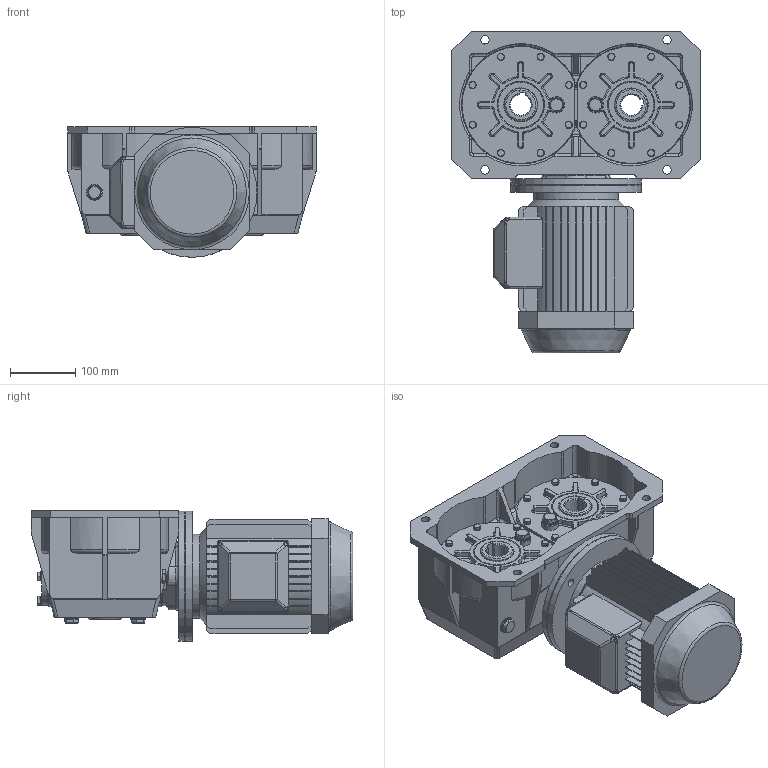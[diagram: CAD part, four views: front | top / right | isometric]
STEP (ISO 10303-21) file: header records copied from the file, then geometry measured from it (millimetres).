
FILE_DESCRIPTION((''),'2;1');
FILE_NAME('Y:\Archivi Inventor\Prog_07\int_170\figurini\MRV1702U per sito\MRV1702U_90l_B5.stp','2013-02-14T15:15:39',('tech3'),(''),'Autodesk Inventor 2013','Autodesk Inventor 2013','');
FILE_SCHEMA(('AUTOMOTIVE_DESIGN { 1 0 10303 214 1 1 1 1 }'));
Length unit declared in the file: millimetre
Products named in the file (18): fig_MRV170 2U 80 B5; fig_Carcassa MRV-2U 170; fig_0717002-A0; 0104029; fig_mozzo corona. MRV-RV40cusc_conici; 0104006; fig_0717009; 0104028; PARAOLIO 50x70x10; PARAOLIO 35x47x8; Guarnizione 3_8 GAS; Tappo3_8 GAS; AS 1237 (2.1) 6; AS 1237 (2.1) 8; UNI 5739 M6 x 20; UNI 5739 M8 x 20; motori B5 90L; UNI 5931 M 8 x  25
Assembly tree (72 placements, depth 2):
  fig_MRV170 2U 80 B5
    fig_Carcassa MRV-2U 170
    fig_0717002-A0  x2
    0104029  x2
    fig_mozzo corona. MRV-RV40cusc_conici  x2
    0104006
    fig_0717009
    0104028
    PARAOLIO 50x70x10  x4
    PARAOLIO 35x47x8
    Guarnizione 3_8 GAS  x6
    Tappo3_8 GAS  x6
    AS 1237 (2.1) 6  x16
    AS 1237 (2.1) 8  x4
    UNI 5739 M6 x 20  x16
    UNI 5739 M8 x 20  x4
    motori B5 90L
    UNI 5931 M 8 x  25  x4
Bounding box: 382 x 494.85 x 201 mm (x, y, z)
Volume: 12451496.1 mm3; surface area: 1332576.8 mm2
Topology: 72 solids, 74 shells, 1874 faces, 4348 edges, 2723 vertices
Faces by surface type: plane 899, cylinder 559, cone 199, torus 103, bspline 90, sphere 24
Full cylindrical faces by diameter (mm): 4.917 x16, 6 x16, 6.4 x16, 6.5 x32, 6.647 x8, 8 x8, 8.4 x4, 8.5 x12, 8.88 x16, 11 x20, 11.63 x4, 12 x4, 13 x8, 13.046 x6, 14 x4, 14.95 x6, 16.3 x6, 22 x12, 24 x1, 25 x4, 39.605 x1, 43.5 x1, 47 x2, 50 x2, 56.381 x4, 62 x5, 65 x4, 70 x8, 89.5 x1, 90 x1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
Entity records: 37720 total; most frequent: CARTESIAN_POINT 10372, DIRECTION 5712, ORIENTED_EDGE 5190, EDGE_CURVE 2595, AXIS2_PLACEMENT_3D 2165, VERTEX_POINT 1723, EDGE_LOOP 1450, VECTOR 1382
